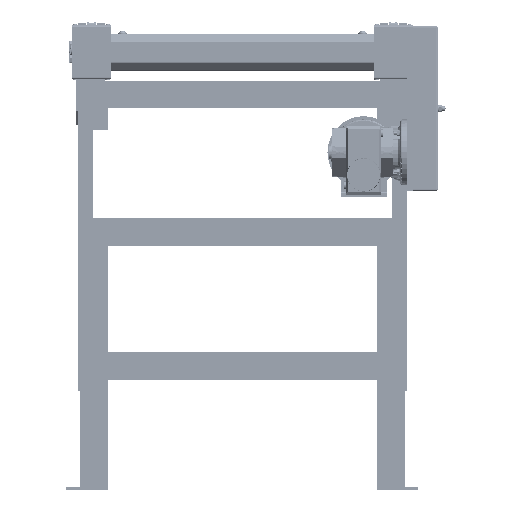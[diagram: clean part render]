
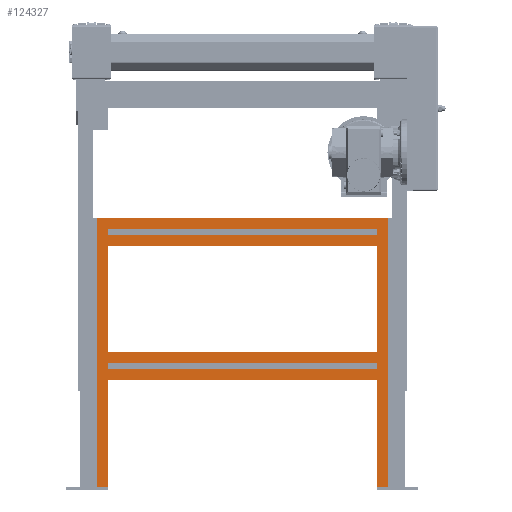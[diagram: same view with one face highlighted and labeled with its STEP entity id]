
A CAD part, front view. The second image highlights one B-rep face of the part: STEP entity #124327.
In plain terms, the highlighted planar face has unit normal (0, -1, 0).
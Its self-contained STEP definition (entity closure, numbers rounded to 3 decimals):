
#3337=LINE('',#184813,#12520);
#3532=LINE('',#185216,#12715);
#3534=LINE('',#185222,#12717);
#3566=LINE('',#185289,#12749);
#3574=LINE('',#185306,#12757);
#3596=LINE('',#185350,#12779);
#3690=LINE('',#185533,#12873);
#3873=LINE('',#185893,#13056);
#3877=LINE('',#185900,#13060);
#3889=LINE('',#185924,#13072);
#3892=LINE('',#185930,#13075);
#3916=LINE('',#185977,#13099);
#3919=LINE('',#185983,#13102);
#3926=LINE('',#185993,#13109);
#3960=LINE('',#186061,#13143);
#3972=LINE('',#186085,#13155);
#3974=LINE('',#186088,#13157);
#3994=LINE('',#186126,#13177);
#4025=LINE('',#186184,#13208);
#4026=LINE('',#186185,#13209);
#12520=VECTOR('',#147364,19.95);
#12715=VECTOR('',#147673,194.5);
#12717=VECTOR('',#147677,194.5);
#12749=VECTOR('',#147723,10.1);
#12757=VECTOR('',#147733,10.1);
#12779=VECTOR('',#147767,489.);
#12873=VECTOR('',#147925,19.95);
#13056=VECTOR('',#148282,491.);
#13060=VECTOR('',#148288,491.);
#13072=VECTOR('',#148312,491.);
#13075=VECTOR('',#148317,491.);
#13099=VECTOR('',#148363,194.5);
#13102=VECTOR('',#148372,194.5);
#13109=VECTOR('',#148381,10.1);
#13143=VECTOR('',#148443,491.);
#13155=VECTOR('',#148467,491.);
#13157=VECTOR('',#148471,491.);
#13177=VECTOR('',#148515,10.1);
#13208=VECTOR('',#148566,530.9);
#13209=VECTOR('',#148567,489.);
#20707=PLANE('',#131509);
#23941=FACE_BOUND('',#34676,.T.);
#23942=FACE_BOUND('',#34677,.T.);
#23943=FACE_BOUND('',#34678,.T.);
#27534=FACE_OUTER_BOUND('',#34675,.T.);
#34675=EDGE_LOOP('',(#83722,#83723,#83724,#83725,#83726,#83727,#83728,#83729));
#34676=EDGE_LOOP('',(#83730,#83731,#83732,#83733));
#34677=EDGE_LOOP('',(#83734,#83735,#83736,#83737));
#34678=EDGE_LOOP('',(#83738,#83739,#83740,#83741));
#51746=VERTEX_POINT('',#184810);
#51747=VERTEX_POINT('',#184812);
#51887=VERTEX_POINT('',#185193);
#51898=VERTEX_POINT('',#185214);
#51900=VERTEX_POINT('',#185219);
#51901=VERTEX_POINT('',#185221);
#51928=VERTEX_POINT('',#185286);
#51929=VERTEX_POINT('',#185288);
#51935=VERTEX_POINT('',#185302);
#51937=VERTEX_POINT('',#185305);
#51951=VERTEX_POINT('',#185346);
#51953=VERTEX_POINT('',#185349);
#52099=VERTEX_POINT('',#185890);
#52102=VERTEX_POINT('',#185897);
#52108=VERTEX_POINT('',#185922);
#52110=VERTEX_POINT('',#185927);
#52122=VERTEX_POINT('',#185975);
#52144=VERTEX_POINT('',#186058);
#52150=VERTEX_POINT('',#186083);
#52173=VERTEX_POINT('',#186183);
#64047=EDGE_CURVE('',#51746,#51747,#3337,.T.);
#64252=EDGE_CURVE('',#51898,#51887,#3532,.T.);
#64254=EDGE_CURVE('',#51900,#51901,#3534,.T.);
#64286=EDGE_CURVE('',#51928,#51929,#3566,.T.);
#64294=EDGE_CURVE('',#51935,#51937,#3574,.T.);
#64316=EDGE_CURVE('',#51953,#51951,#3596,.T.);
#64410=EDGE_CURVE('',#51898,#51953,#3690,.T.);
#64595=EDGE_CURVE('',#52099,#51900,#3873,.T.);
#64599=EDGE_CURVE('',#51929,#52102,#3877,.T.);
#64611=EDGE_CURVE('',#51928,#52108,#3889,.T.);
#64614=EDGE_CURVE('',#51887,#52110,#3892,.T.);
#64638=EDGE_CURVE('',#52099,#52122,#3916,.T.);
#64641=EDGE_CURVE('',#51746,#52110,#3919,.T.);
#64648=EDGE_CURVE('',#52108,#52102,#3926,.T.);
#64682=EDGE_CURVE('',#51937,#52144,#3960,.T.);
#64694=EDGE_CURVE('',#51935,#52150,#3972,.T.);
#64696=EDGE_CURVE('',#51901,#52122,#3974,.T.);
#64716=EDGE_CURVE('',#52150,#52144,#3994,.T.);
#64747=EDGE_CURVE('',#52173,#51951,#4025,.T.);
#64748=EDGE_CURVE('',#51747,#52173,#4026,.T.);
#83722=ORIENTED_EDGE('',*,*,#64614,.F.);
#83723=ORIENTED_EDGE('',*,*,#64252,.F.);
#83724=ORIENTED_EDGE('',*,*,#64410,.T.);
#83725=ORIENTED_EDGE('',*,*,#64316,.T.);
#83726=ORIENTED_EDGE('',*,*,#64747,.F.);
#83727=ORIENTED_EDGE('',*,*,#64748,.F.);
#83728=ORIENTED_EDGE('',*,*,#64047,.F.);
#83729=ORIENTED_EDGE('',*,*,#64641,.T.);
#83730=ORIENTED_EDGE('',*,*,#64595,.F.);
#83731=ORIENTED_EDGE('',*,*,#64638,.T.);
#83732=ORIENTED_EDGE('',*,*,#64696,.F.);
#83733=ORIENTED_EDGE('',*,*,#64254,.F.);
#83734=ORIENTED_EDGE('',*,*,#64599,.F.);
#83735=ORIENTED_EDGE('',*,*,#64286,.F.);
#83736=ORIENTED_EDGE('',*,*,#64611,.T.);
#83737=ORIENTED_EDGE('',*,*,#64648,.T.);
#83738=ORIENTED_EDGE('',*,*,#64682,.F.);
#83739=ORIENTED_EDGE('',*,*,#64294,.F.);
#83740=ORIENTED_EDGE('',*,*,#64694,.T.);
#83741=ORIENTED_EDGE('',*,*,#64716,.T.);
#124327=ADVANCED_FACE('',(#27534,#23941,#23942,#23943),#20707,.T.);
#131509=AXIS2_PLACEMENT_3D('',#186182,#148564,#148565);
#147364=DIRECTION('',(-1.,0.,0.));
#147673=DIRECTION('',(0.,0.,1.));
#147677=DIRECTION('',(0.,0.,1.));
#147723=DIRECTION('',(0.,0.,1.));
#147733=DIRECTION('',(0.,0.,1.));
#147767=DIRECTION('',(0.,0.,1.));
#147925=DIRECTION('',(1.,0.,0.));
#148282=DIRECTION('',(1.,0.,0.));
#148288=DIRECTION('',(-1.,0.,0.));
#148312=DIRECTION('',(-1.,0.,0.));
#148317=DIRECTION('',(-1.,0.,0.));
#148363=DIRECTION('',(0.,0.,1.));
#148372=DIRECTION('',(0.,0.,1.));
#148381=DIRECTION('',(0.,0.,1.));
#148443=DIRECTION('',(-1.,0.,0.));
#148467=DIRECTION('',(-1.,0.,0.));
#148471=DIRECTION('',(-1.,0.,0.));
#148515=DIRECTION('',(0.,0.,1.));
#148564=DIRECTION('center_axis',(0.,-1.,0.));
#148565=DIRECTION('ref_axis',(0.,0.,1.));
#148566=DIRECTION('',(1.,0.,0.));
#148567=DIRECTION('',(0.,0.,1.));
#184810=CARTESIAN_POINT('',(-245.5,-325.,6.));
#184812=CARTESIAN_POINT('',(-265.45,-325.,6.));
#184813=CARTESIAN_POINT('',(-264.25,-325.,6.));
#185193=CARTESIAN_POINT('',(245.5,-325.,200.5));
#185214=CARTESIAN_POINT('',(245.5,-325.,6.));
#185216=CARTESIAN_POINT('',(245.5,-325.,6.));
#185219=CARTESIAN_POINT('',(245.5,-325.,250.5));
#185221=CARTESIAN_POINT('',(245.5,-325.,445.));
#185222=CARTESIAN_POINT('',(245.5,-325.,6.));
#185286=CARTESIAN_POINT('',(245.5,-325.,220.45));
#185288=CARTESIAN_POINT('',(245.5,-325.,230.55));
#185289=CARTESIAN_POINT('',(245.5,-325.,6.));
#185302=CARTESIAN_POINT('',(245.5,-325.,464.95));
#185305=CARTESIAN_POINT('',(245.5,-325.,475.05));
#185306=CARTESIAN_POINT('',(245.5,-325.,6.));
#185346=CARTESIAN_POINT('',(265.45,-325.,495.));
#185349=CARTESIAN_POINT('',(265.45,-325.,6.));
#185350=CARTESIAN_POINT('',(265.45,-325.,6.));
#185533=CARTESIAN_POINT('',(264.25,-325.,6.));
#185890=CARTESIAN_POINT('',(-245.5,-325.,250.5));
#185893=CARTESIAN_POINT('',(0.,-325.,250.5));
#185897=CARTESIAN_POINT('',(-245.5,-325.,230.55));
#185900=CARTESIAN_POINT('',(0.,-325.,230.55));
#185922=CARTESIAN_POINT('',(-245.5,-325.,220.45));
#185924=CARTESIAN_POINT('',(0.,-325.,220.45));
#185927=CARTESIAN_POINT('',(-245.5,-325.,200.5));
#185930=CARTESIAN_POINT('',(0.,-325.,200.5));
#185975=CARTESIAN_POINT('',(-245.5,-325.,445.));
#185977=CARTESIAN_POINT('',(-245.5,-325.,6.));
#185983=CARTESIAN_POINT('',(-245.5,-325.,6.));
#185993=CARTESIAN_POINT('',(-245.5,-325.,6.));
#186058=CARTESIAN_POINT('',(-245.5,-325.,475.05));
#186061=CARTESIAN_POINT('',(0.,-325.,475.05));
#186083=CARTESIAN_POINT('',(-245.5,-325.,464.95));
#186085=CARTESIAN_POINT('',(0.,-325.,464.95));
#186088=CARTESIAN_POINT('',(0.,-325.,445.));
#186126=CARTESIAN_POINT('',(-245.5,-325.,6.));
#186182=CARTESIAN_POINT('Origin',(-245.5,-325.,6.));
#186183=CARTESIAN_POINT('',(-265.45,-325.,495.));
#186184=CARTESIAN_POINT('',(265.45,-325.,495.));
#186185=CARTESIAN_POINT('',(-265.45,-325.,6.));
